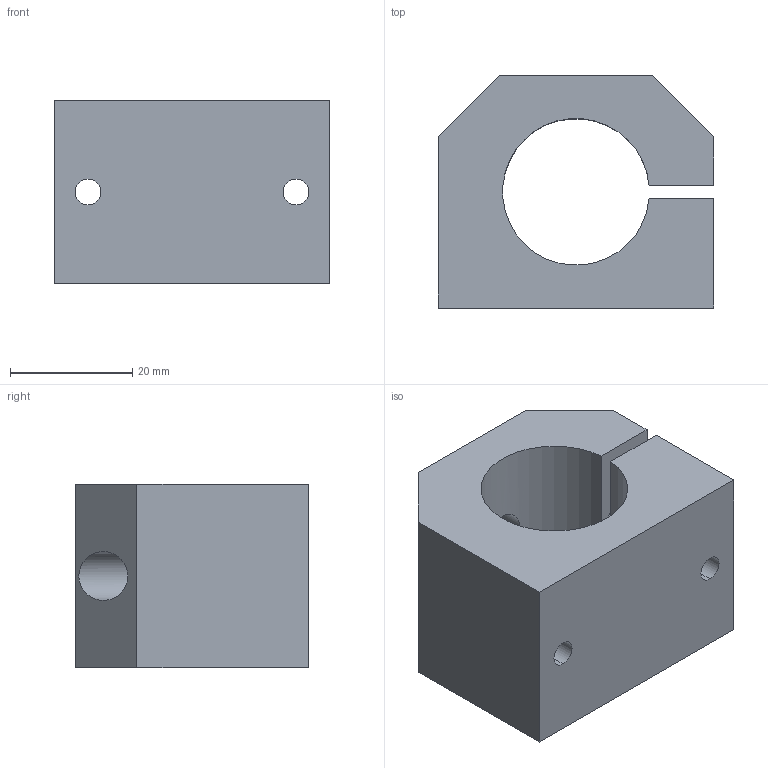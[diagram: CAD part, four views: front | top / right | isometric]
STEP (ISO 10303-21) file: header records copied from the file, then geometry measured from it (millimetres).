
FILE_DESCRIPTION (( 'STEP AP214' ), '1' );
FILE_NAME ('KGCE28 16.step', '2020-03-04T13:07:36', ( '' ), ( '' ), 'SwSTEP 2.0', 'SolidWorks 2019', '' );
FILE_SCHEMA (( 'AUTOMOTIVE_DESIGN' ));
Length unit declared in the file: millimetre
Products named in the file (1): KGCE28 16
Bounding box: 45 x 38 x 30 mm (x, y, z)
Volume: 30421 mm3; surface area: 11570.8 mm2
Topology: 1 solids, 1 shells, 41 faces, 104 edges, 66 vertices
Faces by surface type: cylinder 23, plane 14, cone 4
Entity records: 1442 total; most frequent: CARTESIAN_POINT 296, DIRECTION 210, ORIENTED_EDGE 200, EDGE_CURVE 100, AXIS2_PLACEMENT_3D 78, VERTEX_POINT 66, EDGE_LOOP 58, VECTOR 54
